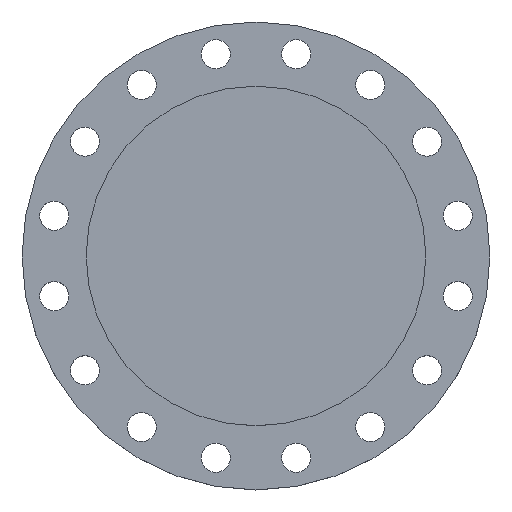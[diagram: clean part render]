
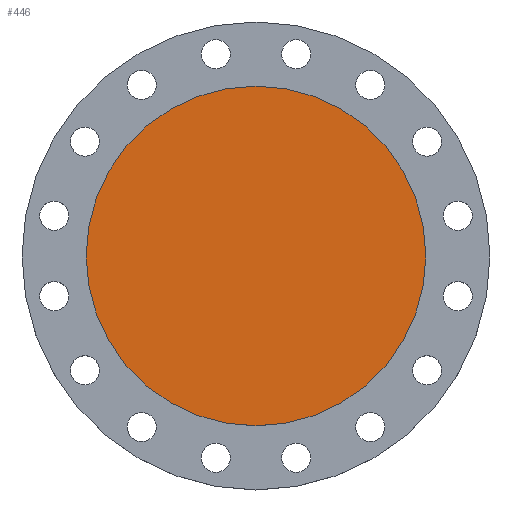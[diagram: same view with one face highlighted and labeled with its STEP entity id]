
A CAD part, top view. The second image highlights one B-rep face of the part: STEP entity #446.
In plain terms, the highlighted planar face has unit normal (0, 0, 1).
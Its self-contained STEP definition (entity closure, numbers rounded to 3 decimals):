
#94 = CARTESIAN_POINT ( 'NONE',  ( 210.5, 0., 0. ) ) ;
#105 = DIRECTION ( 'NONE',  ( -1., 0., 0. ) ) ;
#106 = DIRECTION ( 'NONE',  ( 0., 0., -1. ) ) ;
#107 = CARTESIAN_POINT ( 'NONE',  ( 0., 0., 0. ) ) ;
#289 = DIRECTION ( 'NONE',  ( -1., 0., 0. ) ) ;
#292 = DIRECTION ( 'NONE',  ( 0., 0., -1. ) ) ;
#293 = CARTESIAN_POINT ( 'NONE',  ( 0., 0., 0. ) ) ;
#309 = CARTESIAN_POINT ( 'NONE',  ( -210.5, 0., 0. ) ) ;
#446 = ADVANCED_FACE ( 'NONE', ( #779 ), #777, .T. ) ;
#770 = DIRECTION ( 'NONE',  ( 1., 0., 0. ) ) ;
#771 = DIRECTION ( 'NONE',  ( 0., 0., 1. ) ) ;
#772 = CARTESIAN_POINT ( 'NONE',  ( 0., 0., 0. ) ) ;
#777 = PLANE ( 'NONE',  #1500 ) ;
#779 = FACE_OUTER_BOUND ( 'NONE', #1363, .T. ) ;
#836 = CIRCLE ( 'NONE', #1465, 210.5 ) ;
#1102 = CIRCLE ( 'NONE', #1581, 210.5 ) ;
#1230 = ORIENTED_EDGE ( 'NONE', *, *, #1578, .F. ) ;
#1231 = ORIENTED_EDGE ( 'NONE', *, *, #1361, .F. ) ;
#1314 = VERTEX_POINT ( 'NONE', #309 ) ;
#1361 = EDGE_CURVE ( 'NONE', #1586, #1314, #1102, .T. ) ;
#1363 = EDGE_LOOP ( 'NONE', ( #1230, #1231 ) ) ;
#1465 = AXIS2_PLACEMENT_3D ( 'NONE', #107, #106, #105 ) ;
#1500 = AXIS2_PLACEMENT_3D ( 'NONE', #772, #771, #770 ) ;
#1578 = EDGE_CURVE ( 'NONE', #1314, #1586, #836, .T. ) ;
#1581 = AXIS2_PLACEMENT_3D ( 'NONE', #293, #292, #289 ) ;
#1586 = VERTEX_POINT ( 'NONE', #94 ) ;
